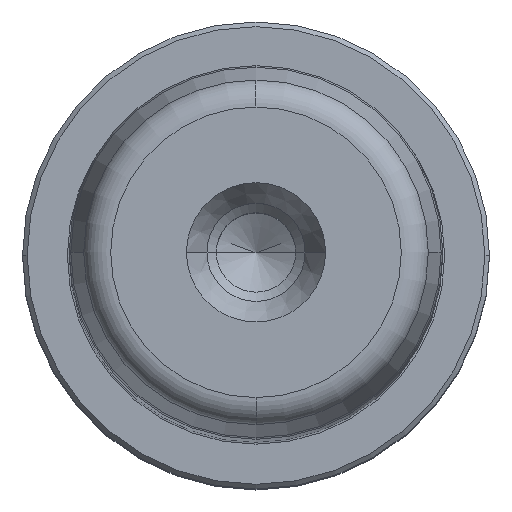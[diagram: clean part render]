
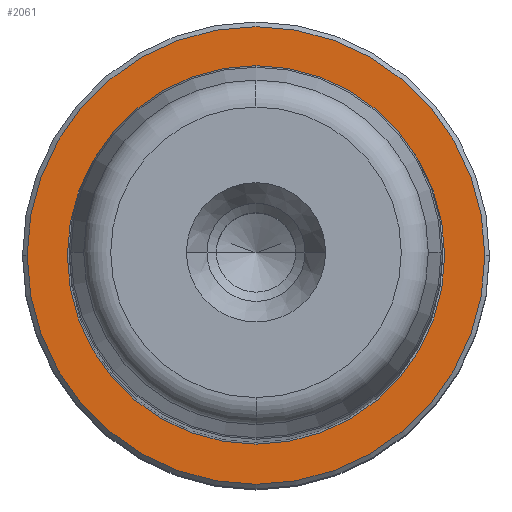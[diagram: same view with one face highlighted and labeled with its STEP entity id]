
A CAD part, top view. The second image highlights one B-rep face of the part: STEP entity #2061.
In plain terms, the highlighted planar face has unit normal (0, 0, 1).
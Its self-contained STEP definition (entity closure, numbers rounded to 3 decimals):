
#898=CARTESIAN_POINT('',(0.0,-20.2,5.));
#899=VERTEX_POINT('',#898);
#907=CARTESIAN_POINT('',(20.2,0.,5.0));
#908=VERTEX_POINT('',#907);
#909=CARTESIAN_POINT('',(0.0,0.,5.0));
#910=DIRECTION('',(0.0,0.0,1.0));
#911=DIRECTION('',(1.0,0.0,0.0));
#912=AXIS2_PLACEMENT_3D('',#909,#910,#911);
#913=CIRCLE('',#912,20.2);
#914=EDGE_CURVE('',#899,#908,#913,.T.);
#916=CARTESIAN_POINT('',(0.,20.2,5.));
#917=VERTEX_POINT('',#916);
#918=CARTESIAN_POINT('',(0.0,0.,5.0));
#919=DIRECTION('',(0.0,0.0,1.0));
#920=DIRECTION('',(1.0,0.0,0.0));
#921=AXIS2_PLACEMENT_3D('',#918,#919,#920);
#922=CIRCLE('',#921,20.2);
#923=EDGE_CURVE('',#908,#917,#922,.T.);
#950=CARTESIAN_POINT('',(24.5,0.,5.0));
#951=VERTEX_POINT('',#950);
#960=CARTESIAN_POINT('',(-24.5,0.,5.0));
#961=VERTEX_POINT('',#960);
#962=CARTESIAN_POINT('',(0.0,0.,5.0));
#963=DIRECTION('',(0.0,0.0,1.0));
#964=DIRECTION('',(1.0,0.0,0.0));
#965=AXIS2_PLACEMENT_3D('',#962,#963,#964);
#966=CIRCLE('',#965,24.5);
#967=EDGE_CURVE('',#961,#951,#966,.T.);
#2031=CARTESIAN_POINT('',(0.0,0.,5.0));
#2032=DIRECTION('',(0.0,0.0,1.0));
#2033=DIRECTION('',(1.0,0.0,0.0));
#2034=AXIS2_PLACEMENT_3D('',#2031,#2032,#2033);
#2035=CIRCLE('',#2034,24.5);
#2036=EDGE_CURVE('',#951,#961,#2035,.T.);
#2041=CARTESIAN_POINT('',(22.35,0.,5.0));
#2042=DIRECTION('',(0.0,0.0,1.0));
#2043=DIRECTION('',(0.0,-1.0,0.0));
#2044=AXIS2_PLACEMENT_3D('',#2041,#2042,#2043);
#2045=PLANE('',#2044);
#2046=ORIENTED_EDGE('',*,*,#2036,.T.);
#2047=ORIENTED_EDGE('',*,*,#967,.T.);
#2048=EDGE_LOOP('',(#2046,#2047));
#2049=FACE_OUTER_BOUND('',#2048,.T.);
#2050=ORIENTED_EDGE('',*,*,#923,.F.);
#2051=ORIENTED_EDGE('',*,*,#914,.F.);
#2052=CARTESIAN_POINT('',(0.0,0.,5.0));
#2053=DIRECTION('',(0.0,0.0,1.0));
#2054=DIRECTION('',(1.0,0.0,0.0));
#2055=AXIS2_PLACEMENT_3D('',#2052,#2053,#2054);
#2056=CIRCLE('',#2055,20.2);
#2057=EDGE_CURVE('',#917,#899,#2056,.T.);
#2058=ORIENTED_EDGE('',*,*,#2057,.F.);
#2059=EDGE_LOOP('',(#2050,#2051,#2058));
#2060=FACE_BOUND('',#2059,.T.);
#2061=ADVANCED_FACE('',(#2049,#2060),#2045,.T.);
